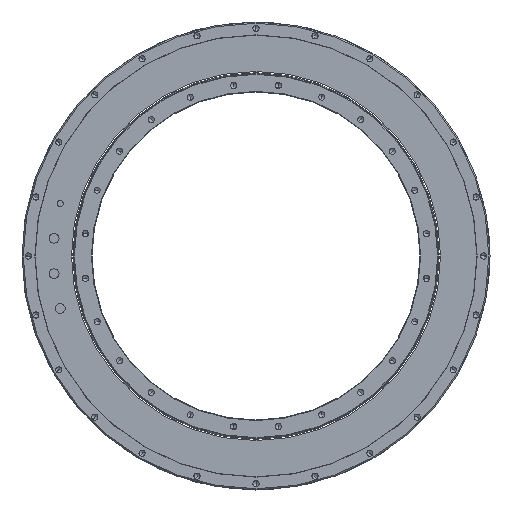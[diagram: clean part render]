
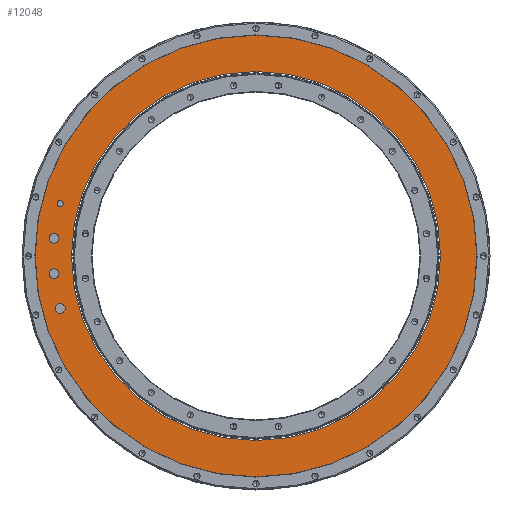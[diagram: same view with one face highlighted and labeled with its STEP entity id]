
A CAD part, left-side view. The second image highlights one B-rep face of the part: STEP entity #12048.
In plain terms, the highlighted planar face has unit normal (-1, 0, 0).
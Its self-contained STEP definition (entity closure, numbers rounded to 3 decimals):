
#11627=CARTESIAN_POINT('',(-120.,0.,0.));
#11628=DIRECTION('',(-1.,0.,0.));
#11629=DIRECTION('',(0.,1.,0.));
#11630=AXIS2_PLACEMENT_3D('',#11627,#11628,#11629);
#11632=CARTESIAN_POINT('',(-120.,0.,0.));
#11633=DIRECTION('',(1.,0.,0.));
#11634=DIRECTION('',(0.,1.,0.));
#11635=AXIS2_PLACEMENT_3D('',#11632,#11633,#11634);
#11637=CARTESIAN_POINT('',(-120.,0.,0.));
#11638=DIRECTION('',(-1.,0.,0.));
#11639=DIRECTION('',(0.,1.,0.));
#11640=AXIS2_PLACEMENT_3D('',#11637,#11638,#11639);
#11642=CARTESIAN_POINT('',(-120.,0.,0.));
#11643=DIRECTION('',(1.,0.,0.));
#11644=DIRECTION('',(0.,1.,0.));
#11645=AXIS2_PLACEMENT_3D('',#11642,#11643,#11644);
#11647=CARTESIAN_POINT('',(-120.,159.378,-42.705));
#11648=DIRECTION('',(-1.,0.,0.));
#11649=DIRECTION('',(0.,0.,1.));
#11650=AXIS2_PLACEMENT_3D('',#11647,#11648,#11649);
#11652=CARTESIAN_POINT('',(-120.,159.378,-42.705));
#11653=DIRECTION('',(-1.,0.,0.));
#11654=DIRECTION('',(0.,0.,-1.));
#11655=AXIS2_PLACEMENT_3D('',#11652,#11653,#11654);
#11657=CARTESIAN_POINT('',(-120.,159.378,42.705));
#11658=DIRECTION('',(-1.,0.,0.));
#11659=DIRECTION('',(0.,0.,1.));
#11660=AXIS2_PLACEMENT_3D('',#11657,#11658,#11659);
#11662=CARTESIAN_POINT('',(-120.,159.378,42.705));
#11663=DIRECTION('',(-1.,0.,0.));
#11664=DIRECTION('',(0.,0.,-1.));
#11665=AXIS2_PLACEMENT_3D('',#11662,#11663,#11664);
#11667=CARTESIAN_POINT('',(-120.,164.372,14.381));
#11668=DIRECTION('',(-1.,0.,0.));
#11669=DIRECTION('',(0.,0.,1.));
#11670=AXIS2_PLACEMENT_3D('',#11667,#11668,#11669);
#11672=CARTESIAN_POINT('',(-120.,164.372,14.381));
#11673=DIRECTION('',(-1.,0.,0.));
#11674=DIRECTION('',(0.,0.,-1.));
#11675=AXIS2_PLACEMENT_3D('',#11672,#11673,#11674);
#11677=CARTESIAN_POINT('',(-120.,164.372,-14.381));
#11678=DIRECTION('',(-1.,0.,0.));
#11679=DIRECTION('',(0.,0.,1.));
#11680=AXIS2_PLACEMENT_3D('',#11677,#11678,#11679);
#11682=CARTESIAN_POINT('',(-120.,164.372,-14.381));
#11683=DIRECTION('',(-1.,0.,0.));
#11684=DIRECTION('',(0.,0.,-1.));
#11685=AXIS2_PLACEMENT_3D('',#11682,#11683,#11684);
#11836=CARTESIAN_POINT('',(-120.,179.8,0.));
#11838=VERTEX_POINT('',#11836);
#11839=CARTESIAN_POINT('',(-120.,150.2,0.));
#11841=VERTEX_POINT('',#11839);
#11856=CARTESIAN_POINT('',(-120.,-179.8,0.));
#11858=VERTEX_POINT('',#11856);
#11859=CARTESIAN_POINT('',(-120.,-150.2,0.));
#11861=VERTEX_POINT('',#11859);
#11891=CARTESIAN_POINT('',(-120.,159.378,-38.705));
#11892=CARTESIAN_POINT('',(-120.,159.378,-46.705));
#11893=VERTEX_POINT('',#11891);
#11894=VERTEX_POINT('',#11892);
#11895=CARTESIAN_POINT('',(-120.,159.378,45.205));
#11896=CARTESIAN_POINT('',(-120.,159.378,40.205));
#11897=VERTEX_POINT('',#11895);
#11898=VERTEX_POINT('',#11896);
#11899=CARTESIAN_POINT('',(-120.,164.372,18.381));
#11900=CARTESIAN_POINT('',(-120.,164.372,10.381));
#11901=VERTEX_POINT('',#11899);
#11902=VERTEX_POINT('',#11900);
#11903=CARTESIAN_POINT('',(-120.,164.372,-10.381));
#11904=CARTESIAN_POINT('',(-120.,164.372,-18.381));
#11905=VERTEX_POINT('',#11903);
#11906=VERTEX_POINT('',#11904);
#12009=CARTESIAN_POINT('',(-120.,0.,0.));
#12010=DIRECTION('',(1.,0.,0.));
#12011=DIRECTION('',(0.,-1.,0.));
#12012=AXIS2_PLACEMENT_3D('',#12009,#12010,#12011);
#12013=PLANE('',#12012);
#12015=ORIENTED_EDGE('',*,*,#12014,.F.);
#12017=ORIENTED_EDGE('',*,*,#12016,.T.);
#12018=EDGE_LOOP('',(#12015,#12017));
#12019=FACE_OUTER_BOUND('',#12018,.F.);
#12020=ORIENTED_EDGE('',*,*,#12002,.F.);
#12021=ORIENTED_EDGE('',*,*,#11991,.T.);
#12022=EDGE_LOOP('',(#12020,#12021));
#12023=FACE_BOUND('',#12022,.F.);
#12025=ORIENTED_EDGE('',*,*,#12024,.T.);
#12027=ORIENTED_EDGE('',*,*,#12026,.T.);
#12028=EDGE_LOOP('',(#12025,#12027));
#12029=FACE_BOUND('',#12028,.F.);
#12031=ORIENTED_EDGE('',*,*,#12030,.T.);
#12033=ORIENTED_EDGE('',*,*,#12032,.T.);
#12034=EDGE_LOOP('',(#12031,#12033));
#12035=FACE_BOUND('',#12034,.F.);
#12037=ORIENTED_EDGE('',*,*,#12036,.T.);
#12039=ORIENTED_EDGE('',*,*,#12038,.T.);
#12040=EDGE_LOOP('',(#12037,#12039));
#12041=FACE_BOUND('',#12040,.F.);
#12043=ORIENTED_EDGE('',*,*,#12042,.T.);
#12045=ORIENTED_EDGE('',*,*,#12044,.T.);
#12046=EDGE_LOOP('',(#12043,#12045));
#12047=FACE_BOUND('',#12046,.F.);
#12048=ADVANCED_FACE('',(#12019,#12023,#12029,#12035,#12041,#12047),#12013,.F.);
#11631=CIRCLE('',#11630,150.2);
#11636=CIRCLE('',#11635,150.2);
#11641=CIRCLE('',#11640,179.8);
#11646=CIRCLE('',#11645,179.8);
#11651=CIRCLE('',#11650,4.);
#11656=CIRCLE('',#11655,4.);
#11661=CIRCLE('',#11660,2.5);
#11666=CIRCLE('',#11665,2.5);
#11671=CIRCLE('',#11670,4.);
#11676=CIRCLE('',#11675,4.);
#11681=CIRCLE('',#11680,4.);
#11686=CIRCLE('',#11685,4.);
#11991=EDGE_CURVE('',#11841,#11861,#11631,.T.);
#12002=EDGE_CURVE('',#11841,#11861,#11636,.T.);
#12014=EDGE_CURVE('',#11838,#11858,#11641,.T.);
#12016=EDGE_CURVE('',#11838,#11858,#11646,.T.);
#12024=EDGE_CURVE('',#11893,#11894,#11651,.T.);
#12026=EDGE_CURVE('',#11894,#11893,#11656,.T.);
#12030=EDGE_CURVE('',#11897,#11898,#11661,.T.);
#12032=EDGE_CURVE('',#11898,#11897,#11666,.T.);
#12036=EDGE_CURVE('',#11901,#11902,#11671,.T.);
#12038=EDGE_CURVE('',#11902,#11901,#11676,.T.);
#12042=EDGE_CURVE('',#11905,#11906,#11681,.T.);
#12044=EDGE_CURVE('',#11906,#11905,#11686,.T.);
